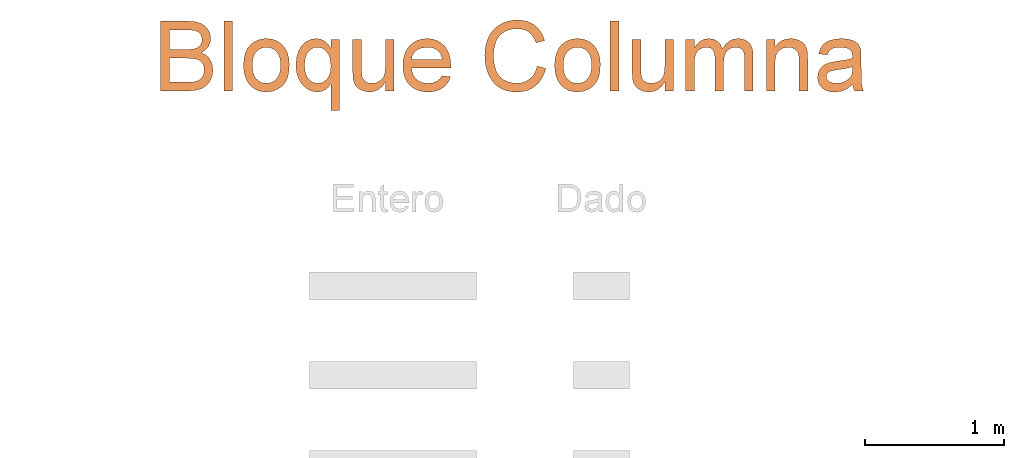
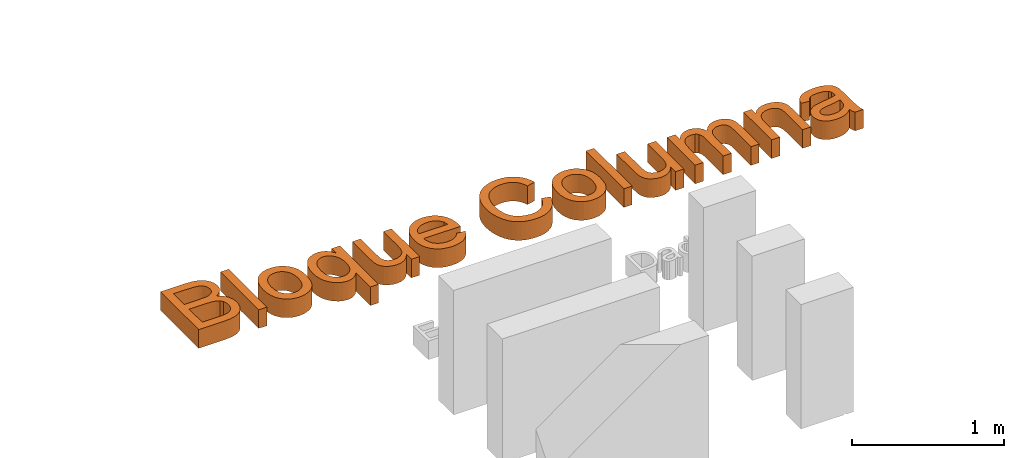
# One storey, part 3 of 8: 1 proxy.
"""IFC2X3 building model written with IfcOpenShell, lengths in metres."""

import ifcopenshell
import ifcopenshell.guid

model = None  # the IFC model being written
_history = None  # IfcOwnerHistory: only IFC2X3 demands one
_inside = {}  # id of a spatial element -> (the spatial element, [elements in it])
_under = {}  # id of a project, library or spatial element -> (it, [spatial elements below it])
_declared = {}  # id of a project -> (the project, [libraries it declares])
_typed = {}  # id of a type object -> (the type object, [elements of that type])
_made_of = {}  # id of a material, layer set ... -> (it, [elements and type objects made of it])


def new_model(schema):
    """Start an empty IFC model of exactly this schema.

    Asked for "IFC4X3", IfcOpenShell would pick the latest addendum, in which some entities
    have other attributes; the version numbers below select the first issue.
    IFC2X3 requires an IfcOwnerHistory on every rooted entity: one is made here for all.
    """
    global model, _history
    if schema == "IFC4X3":
        model = ifcopenshell.file(schema_version=(4, 3, 0, 0))
    else:
        model = ifcopenshell.file(schema=schema)
    _inside.clear()
    _under.clear()
    _declared.clear()
    _typed.clear()
    _made_of.clear()
    _history = None
    if model.schema == "IFC2X3":
        org = make("IfcOrganization", Name="unknown")
        user = make(
            "IfcPersonAndOrganization",
            ThePerson=make("IfcPerson", FamilyName="unknown"),
            TheOrganization=org,
        )
        app = make(
            "IfcApplication",
            ApplicationDeveloper=org,
            Version="unknown",
            ApplicationFullName="unknown",
            ApplicationIdentifier="unknown",
        )
        _history = make(
            "IfcOwnerHistory",
            OwningUser=user,
            OwningApplication=app,
            ChangeAction="ADDED",
            CreationDate=0,
        )
    return model


def make(cls, **values):
    """One entity of the class cls with the attributes given. An attribute that is None is left unset."""
    return model.create_entity(
        cls, **{name: value for name, value in values.items() if value is not None}
    )


def entity(cls, *values):
    """Any entity or typed value of the class cls, its attributes in the order of the schema. None: left unset."""
    e = model.create_entity(cls)
    for i, value in enumerate(values):
        if value is not None:
            e[i] = value
    return e


def rooted(cls, **values):
    """An entity with a GlobalId (a new one), such as an element, a storey or a relation."""
    return make(cls, GlobalId=ifcopenshell.guid.new(), OwnerHistory=_history, **values)


def si_unit(unit_type, name, prefix=None):
    """IfcSIUnit, for example si_unit("LENGTHUNIT", "METRE", prefix="MILLI")."""
    return make("IfcSIUnit", UnitType=unit_type, Prefix=prefix, Name=name)


def converted_unit(unit_type, name, factor, base, dimensions=None, offset=None):
    """IfcConversionBasedUnit, such as the inch: factor (a typed value) times the base unit."""
    return make(
        "IfcConversionBasedUnit"
        if offset is None
        else "IfcConversionBasedUnitWithOffset",
        ConversionOffset=offset,
        Dimensions=None
        if dimensions is None
        else entity("IfcDimensionalExponents", *dimensions),
        UnitType=unit_type,
        Name=name,
        ConversionFactor=make(
            "IfcMeasureWithUnit", ValueComponent=factor, UnitComponent=base
        ),
    )


def derived_unit(unit_type, elements):
    """IfcDerivedUnit: a product of units, each with its exponent."""
    return make(
        "IfcDerivedUnit",
        Elements=[
            make("IfcDerivedUnitElement", Unit=unit, Exponent=power)
            for unit, power in elements
        ],
        UnitType=unit_type,
    )


def assignment(units):
    """IfcUnitAssignment: the units of a project."""
    return None if units is None else make("IfcUnitAssignment", Units=units)


def point(xyz):
    """IfcCartesianPoint."""
    return None if xyz is None else make("IfcCartesianPoint", Coordinates=xyz)


def direction(xyz):
    """IfcDirection."""
    return None if xyz is None else make("IfcDirection", DirectionRatios=xyz)


def frame(location, z_axis=None, x_axis=None):
    """IfcAxis2Placement3D, a coordinate frame: its origin and axes. An axis left out is left unset."""
    return make(
        "IfcAxis2Placement3D",
        Location=point(location),
        Axis=direction(z_axis),
        RefDirection=direction(x_axis),
    )


def frame_2d(location, x_axis=None):
    """IfcAxis2Placement2D, a coordinate frame in the plane: its origin and x axis."""
    return make(
        "IfcAxis2Placement2D", Location=point(location), RefDirection=direction(x_axis)
    )


def origin():
    """The frame at (0, 0, 0) with its axes left unset."""
    return frame((0.0, 0.0, 0.0))


def origin_2d_with_axis():
    """The frame at (0, 0) in the plane with the x axis (1, 0) written out."""
    return frame_2d((0.0, 0.0), x_axis=(1.0, 0.0))


def place(relative_to, where):
    """IfcLocalPlacement: puts the frame where relative to a parent placement (None: the world)."""
    return make(
        "IfcLocalPlacement", PlacementRelTo=relative_to, RelativePlacement=where
    )


def context(
    kind, dimensions, precision=None, world=None, true_north=None, identifier=None
):
    """IfcGeometricRepresentationContext, for example the 3D "Model" context."""
    return make(
        "IfcGeometricRepresentationContext",
        ContextIdentifier=identifier,
        ContextType=kind,
        CoordinateSpaceDimension=dimensions,
        Precision=precision,
        WorldCoordinateSystem=world,
        TrueNorth=true_north,
    )


def subcontext(parent, identifier, kind, view, scale=None):
    """IfcGeometricRepresentationSubContext, for example "Body" below "Model"."""
    return make(
        "IfcGeometricRepresentationSubContext",
        ContextIdentifier=identifier,
        ContextType=kind,
        ParentContext=parent,
        TargetScale=scale,
        TargetView=view,
    )


def project(units=None, contexts=None):
    """IfcProject with its units and contexts."""
    return rooted(
        "IfcProject",
        Name="project",
        RepresentationContexts=contexts,
        UnitsInContext=assignment(units),
    )


def spatial(cls, under=None, at=None, **own):
    """A site, building, storey or space (cls), placed at a placement, below another one or the project."""
    s = rooted(cls, ObjectPlacement=at, **own)
    if under is not None:
        _under.setdefault(under.id(), (under, []))[1].append(s)
    return s


def polyline(points):
    """IfcPolyline through the points."""
    return make("IfcPolyline", Points=[point(p) for p in points])


def profile(cls, at=None, kind="AREA", **sizes):
    """A parametric profile (cls). Its sizes go by their IFC names, for example OverallWidth=200.0."""
    return make(cls, ProfileType=kind, Position=at, **sizes)


def rectangle(**sizes):
    """IfcRectangleProfileDef."""
    return profile("IfcRectangleProfileDef", **sizes)


def outline(outer, holes=None, kind="AREA"):
    """IfcArbitraryClosedProfileDef: a profile drawn as a closed curve; with holes, ...WithVoids."""
    if holes is None:
        return make("IfcArbitraryClosedProfileDef", ProfileType=kind, OuterCurve=outer)
    return make(
        "IfcArbitraryProfileDefWithVoids",
        ProfileType=kind,
        OuterCurve=outer,
        InnerCurves=holes,
    )


def extrude(swept, where, along, depth):
    """IfcExtrudedAreaSolid: the profile swept, set in the frame where, extruded along a direction by depth."""
    return make(
        "IfcExtrudedAreaSolid",
        SweptArea=swept,
        Position=where,
        ExtrudedDirection=direction(along),
        Depth=depth,
    )


def shape(context_of_items, identifier, shape_type, items):
    """IfcShapeRepresentation: the items that make up one representation, for example the "Body"."""
    return make(
        "IfcShapeRepresentation",
        ContextOfItems=context_of_items,
        RepresentationIdentifier=identifier,
        RepresentationType=shape_type,
        Items=items,
    )


def made_of(thing, what):
    """Note that an element or type object is made of a material, layer set ...; save() writes the relation."""
    if what is not None:
        _made_of.setdefault(what.id(), (what, []))[1].append(thing)
    return thing


def type_object(cls, material=None, **own):
    """A type object (cls), such as IfcWallType, which elements share."""
    return made_of(rooted(cls, **own), material)


def element(
    cls,
    number,
    at=None,
    inside=None,
    cuts=None,
    type_object=None,
    material=None,
    context=None,
    identifier="Body",
    shape_type=None,
    held_by="IfcProductDefinitionShape",
    body=None,
    shapes=None,
    **own,
):
    """One element of the class cls, such as IfcWall. Its Tag is "e" and its number.

    at: its placement. inside: the storey or other place that contains it. cuts: it is an
    opening in that element (IfcRelVoidsElement). A single representation is given by context,
    identifier, shape_type and body (its items); several are given by shapes. held_by: the class
    of the entity that holds the representations. save() writes the other relations.
    """
    e = rooted(cls, Tag="e%d" % number, ObjectPlacement=at, **own)
    if body is not None:
        shapes = [shape(context, identifier, shape_type, body)]
    if shapes is not None:
        e.Representation = make(held_by, Representations=shapes)
    if inside is not None:
        _inside.setdefault(inside.id(), (inside, []))[1].append(e)
    if cuts is not None:
        rooted(
            "IfcRelVoidsElement", RelatingBuildingElement=cuts, RelatedOpeningElement=e
        )
    if type_object is not None:
        _typed.setdefault(type_object.id(), (type_object, []))[1].append(e)
    return made_of(e, material)


def aggregate(whole, parts):
    """IfcRelAggregates: a whole, such as a stair, and the parts it consists of."""
    return rooted("IfcRelAggregates", RelatingObject=whole, RelatedObjects=parts)


def save(model, path):
    """Write the relations noted so far, then the file.

    IfcRelAggregates (storeys below a building ...), IfcRelContainedInSpatialStructure (elements
    in a storey), IfcRelDefinesByType, IfcRelAssociatesMaterial and IfcRelDeclares: one each for
    every whole, place, type object, material and project.
    """
    for whole, parts in _under.values():
        aggregate(whole, parts)
    for where, things in _inside.values():
        rooted(
            "IfcRelContainedInSpatialStructure",
            RelatedElements=things,
            RelatingStructure=where,
        )
    for kind, things in _typed.values():
        rooted("IfcRelDefinesByType", RelatedObjects=things, RelatingType=kind)
    for what, things in _made_of.values():
        rooted("IfcRelAssociatesMaterial", RelatedObjects=things, RelatingMaterial=what)
    for by, libraries in _declared.values():
        rooted("IfcRelDeclares", RelatingContext=by, RelatedDefinitions=libraries)
    model.write(path)


model = new_model("IFC2X3")

# Units and contexts
model_context = context("Model", 3, precision=1e-05, world=origin(), true_north=direction((6.12303176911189e-17, 1.0)))
body_context = subcontext(model_context, "Body", "Model", "MODEL_VIEW")
ifc_project = project(units=[si_unit("LENGTHUNIT", "METRE"), si_unit("AREAUNIT", "SQUARE_METRE"), si_unit("VOLUMEUNIT", "CUBIC_METRE"), converted_unit("PLANEANGLEUNIT", "DEGREE", entity("IfcRatioMeasure", 0.0174532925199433), si_unit("PLANEANGLEUNIT", "RADIAN"), dimensions=[0, 0, 0, 0, 0, 0, 0]), si_unit("MASSUNIT", "GRAM", prefix="KILO"), derived_unit("MASSDENSITYUNIT", [(si_unit("MASSUNIT", "GRAM", prefix="KILO"), 1), (si_unit("LENGTHUNIT", "METRE"), -3)]), derived_unit("MOMENTOFINERTIAUNIT", [(si_unit("LENGTHUNIT", "METRE"), 4)]), si_unit("TIMEUNIT", "SECOND"), si_unit("FREQUENCYUNIT", "HERTZ"), si_unit("THERMODYNAMICTEMPERATUREUNIT", "DEGREE_CELSIUS"), derived_unit("THERMALTRANSMITTANCEUNIT", [(si_unit("MASSUNIT", "GRAM", prefix="KILO"), 1), (si_unit("THERMODYNAMICTEMPERATUREUNIT", "KELVIN"), -1), (si_unit("TIMEUNIT", "SECOND"), -3)]), derived_unit("VOLUMETRICFLOWRATEUNIT", [(si_unit("LENGTHUNIT", "METRE"), 3), (si_unit("TIMEUNIT", "SECOND"), -1)]), si_unit("ELECTRICCURRENTUNIT", "AMPERE"), si_unit("ELECTRICVOLTAGEUNIT", "VOLT"), si_unit("POWERUNIT", "WATT"), si_unit("FORCEUNIT", "NEWTON", prefix="KILO"), si_unit("ILLUMINANCEUNIT", "LUX"), si_unit("LUMINOUSFLUXUNIT", "LUMEN"), si_unit("LUMINOUSINTENSITYUNIT", "CANDELA"), derived_unit("USERDEFINED", [(si_unit("MASSUNIT", "GRAM", prefix="KILO"), -1), (si_unit("LENGTHUNIT", "METRE"), -2), (si_unit("TIMEUNIT", "SECOND"), 3), (si_unit("LUMINOUSFLUXUNIT", "LUMEN"), 1)]), derived_unit("LINEARVELOCITYUNIT", [(si_unit("LENGTHUNIT", "METRE"), 1), (si_unit("TIMEUNIT", "SECOND"), -1)]), si_unit("PRESSUREUNIT", "PASCAL"), derived_unit("USERDEFINED", [(si_unit("LENGTHUNIT", "METRE"), -2), (si_unit("MASSUNIT", "GRAM", prefix="KILO"), 1), (si_unit("TIMEUNIT", "SECOND"), -2)]), derived_unit("LINEARFORCEUNIT", [(si_unit("MASSUNIT", "GRAM", prefix="KILO"), 1), (si_unit("LENGTHUNIT", "METRE"), 1), (si_unit("TIMEUNIT", "SECOND"), -2), (si_unit("LENGTHUNIT", "METRE"), -1)]), derived_unit("PLANARFORCEUNIT", [(si_unit("MASSUNIT", "GRAM", prefix="KILO"), 1), (si_unit("LENGTHUNIT", "METRE"), 1), (si_unit("TIMEUNIT", "SECOND"), -2), (si_unit("LENGTHUNIT", "METRE"), -2)])], contexts=[model_context])

# Site, building, storey
site_placement = place(None, origin())
site = spatial("IfcSite", under=ifc_project, at=site_placement, Name="Default", CompositionType="ELEMENT")
building_placement = place(site_placement, origin())
building = spatial("IfcBuilding", under=site, at=building_placement, CompositionType="ELEMENT")
storey_placement = place(building_placement, origin())
storey = spatial("IfcBuildingStorey", under=building, at=storey_placement, Name="Nivel 1", CompositionType="ELEMENT", Elevation=0.0)

# Proxy
building_element_proxy_type = type_object("IfcBuildingElementProxyType", Name="Texto de modelo:Título", PredefinedType="NOTDEFINED")
proxy_placement = place(storey_placement, origin())
element("IfcBuildingElementProxy", 1, at=proxy_placement, inside=storey, type_object=building_element_proxy_type, Name="Texto de modelo:Título", ObjectType="Texto de modelo:Título", context=body_context, shape_type="SweptSolid", body=[
    extrude(outline(polyline([(-0.292681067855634, -0.243581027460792), (-0.102486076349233, -0.243581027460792), (-0.0585088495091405, -0.241419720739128), (-0.021981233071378, -0.234935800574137), (0.00807779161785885, -0.224236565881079), (0.0326492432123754, -0.209429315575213), (0.0527141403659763, -0.188981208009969), (0.0692535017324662, -0.161359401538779), (0.0803359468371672, -0.128878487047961), (0.0840300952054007, -0.0938530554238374), (0.0786191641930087, -0.0518225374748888), (0.0623863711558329, -0.015739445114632), (0.0504033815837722, -0.000395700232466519), (0.0360981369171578, 0.0125261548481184), (0.0194706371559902, 0.0230261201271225), (0.000520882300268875, 0.0311041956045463), (0.0303039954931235, 0.0506785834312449), (0.0514725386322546, 0.0755566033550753), (0.0641184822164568, 0.103990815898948), (0.0683337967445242, 0.134233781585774), (0.0633214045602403, 0.167097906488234), (0.048284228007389, 0.198490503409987), (0.0244025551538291, 0.22517727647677), (-0.00714332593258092, 0.243923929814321), (-0.0483001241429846, 0.255006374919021), (-0.101014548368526, 0.258700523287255), (-0.292681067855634, 0.258700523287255), (-0.292681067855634, -0.243581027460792)]), holes=[polyline([(-0.229895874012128, 0.0546486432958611), (-0.229895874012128, 0.195915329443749), (-0.123945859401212, 0.195915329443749), (-0.0752014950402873, 0.194275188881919), (-0.0432570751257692, 0.18935476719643), (-0.0224410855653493, 0.180019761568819), (-0.00708201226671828, 0.165135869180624), (0.00239094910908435, 0.146067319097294), (0.00554860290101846, 0.124178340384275), (0.00216102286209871, 0.10163023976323), (-0.00800171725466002, 0.083282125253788), (-0.0248476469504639, 0.069348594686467), (-0.0482847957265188, 0.0600442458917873), (-0.0751401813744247, 0.0559975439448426), (-0.115239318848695, 0.0546486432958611), (-0.229895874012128, 0.0546486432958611)]), polyline([(-0.229895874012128, -0.180795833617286), (-0.229895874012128, -0.00813655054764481), (-0.107268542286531, -0.00813655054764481), (-0.0625555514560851, -0.0102365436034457), (-0.0297067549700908, -0.0165365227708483), (-0.00651486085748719, -0.0280175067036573), (0.00922742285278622, -0.0456605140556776), (0.0182405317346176, -0.0682239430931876), (0.021244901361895, -0.0944661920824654), (0.0186850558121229, -0.117060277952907), (0.0110055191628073, -0.136772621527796), (-0.000644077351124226, -0.152882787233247), (-0.0151141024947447, -0.16467033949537), (-0.0329103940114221, -0.172901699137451), (-0.0545387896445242, -0.178343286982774), (-0.101137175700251, -0.180795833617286), (-0.229895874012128, -0.180795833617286)])]), frame((-2.20732768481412, 0.973468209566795, 0.0)), (0.0, 0.0, 1.0), 0.15),
    extrude(rectangle(XDim=0.062785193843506, YDim=0.502281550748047, at=origin_2d_with_axis()), frame((-2.01342350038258, 0.981027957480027, 0.0)), (0.0, 0.0, 1.0), 0.15),
    extrude(outline(polyline([(-0.0131957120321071, -0.170548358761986), (0.0307665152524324, -0.170548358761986), (0.0696520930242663, -0.164512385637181), (0.103461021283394, -0.152440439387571), (0.132193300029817, -0.134332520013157), (0.155411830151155, -0.111243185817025), (0.172679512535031, -0.0842269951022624), (0.183996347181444, -0.0532839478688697), (0.189362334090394, -0.0184140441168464), (0.186618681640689, 0.0261717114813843), (0.172415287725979, 0.0679068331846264), (0.161237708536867, 0.0869767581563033), (0.147638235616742, 0.103876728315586), (0.131616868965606, 0.118606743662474), (0.113173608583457, 0.131166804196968), (0.091547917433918, 0.141494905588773), (0.0659792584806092, 0.149529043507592), (0.00301303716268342, 0.158715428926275), (-0.0385534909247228, 0.158529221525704), (-0.0757586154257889, 0.152292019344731), (-0.108602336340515, 0.140003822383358), (-0.137084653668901, 0.121664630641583), (-0.160392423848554, 0.0984428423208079), (-0.177712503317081, 0.0715068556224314), (-0.189044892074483, 0.040856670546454), (-0.194389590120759, 0.00649228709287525), (-0.1938749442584, -0.024984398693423), (-0.18810582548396, -0.0543136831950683), (-0.17708223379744, -0.0814955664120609), (-0.160804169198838, -0.106530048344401), (-0.134450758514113, -0.132057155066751), (-0.101064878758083, -0.151235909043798), (-0.060646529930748, -0.164066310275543), (-0.0131957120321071, -0.170548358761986)]), holes=[polyline([(-0.00925174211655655, -0.107887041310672), (-0.0395162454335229, -0.104102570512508), (-0.0654537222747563, -0.0969584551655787), (-0.0870641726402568, -0.0864546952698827), (-0.104347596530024, -0.0725912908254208), (-0.117399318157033, -0.0562452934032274), (-0.126314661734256, -0.0382937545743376), (-0.131093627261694, -0.0187366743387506), (-0.131736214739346, 0.00242594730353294), (-0.128372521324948, 0.0230712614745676), (-0.121092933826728, 0.0416882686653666), (-0.109897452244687, 0.0582769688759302), (-0.0947860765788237, 0.0728373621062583), (-0.0759345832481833, 0.0844361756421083), (-0.0535187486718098, 0.0921401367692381), (-0.0275385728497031, 0.0959492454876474), (0.00200594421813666, 0.0958635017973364), (0.032985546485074, 0.0920326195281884), (0.0594775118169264, 0.0848525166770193), (0.0814818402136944, 0.0743231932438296), (0.0989985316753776, 0.0604446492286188), (0.112185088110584, 0.0441052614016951), (0.121199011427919, 0.0261934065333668), (0.126040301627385, 0.00670908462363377), (0.126708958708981, -0.0143477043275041), (0.123328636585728, -0.0352492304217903), (0.116038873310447, -0.0540230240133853), (0.10483966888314, -0.0706690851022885), (0.0897310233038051, -0.0851874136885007), (0.0707470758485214, -0.0966969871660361), (0.0479219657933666, -0.10431678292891), (0.0212556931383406, -0.108046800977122), (-0.00925174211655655, -0.107887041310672)])]), frame((-1.73250448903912, 0.912196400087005, 0.0), z_axis=(0.0, 0.0, 1.0), x_axis=(0.0647659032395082, -0.997900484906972, 0.0)), (0.0, 0.0, 1.0), 0.15),
    extrude(outline(polyline([(0.11312234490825, -0.311998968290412), (0.175907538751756, -0.311998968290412), (0.175907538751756, 0.198130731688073), (0.11312234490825, 0.198130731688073), (0.11312234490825, 0.135590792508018), (0.092674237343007, 0.166385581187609), (0.0687312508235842, 0.188381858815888), (0.0412933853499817, 0.201579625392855), (0.0103606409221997, 0.205978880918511), (-0.0296465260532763, 0.200307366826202), (-0.0662814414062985, 0.183292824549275), (-0.0827211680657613, 0.170616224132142), (-0.0970915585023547, 0.155272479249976), (-0.119624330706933, 0.11658355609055), (-0.133419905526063, 0.0697092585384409), (-0.138018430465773, 0.0171327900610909), (-0.135121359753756, -0.0259975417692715), (-0.126430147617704, -0.0642764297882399), (-0.111944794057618, -0.0977038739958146), (-0.0916652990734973, -0.126279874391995), (-0.0673774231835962, -0.149161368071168), (-0.0408669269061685, -0.165505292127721), (-0.0121338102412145, -0.175311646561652), (0.018821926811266, -0.178580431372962), (0.046842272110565, -0.174441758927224), (0.0732684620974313, -0.162025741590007), (0.096046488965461, -0.143355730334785), (0.11312234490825, -0.120455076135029), (0.11312234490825, -0.311998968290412)]), holes=[polyline([(-0.0752332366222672, 0.0136992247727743), (-0.0735586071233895, 0.0447967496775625), (-0.0685347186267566, 0.0715026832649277), (-0.0601615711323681, 0.09381702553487), (-0.0484391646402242, 0.111739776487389), (-0.0343101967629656, 0.125500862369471), (-0.0187173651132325, 0.135330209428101), (-0.0016606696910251, 0.141227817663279), (0.0168598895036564, 0.143193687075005), (0.0356103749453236, 0.141082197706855), (0.053111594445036, 0.134747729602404), (0.0693635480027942, 0.124190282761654), (0.0843662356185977, 0.109409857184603), (0.0969470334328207, 0.0904447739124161), (0.105933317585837, 0.0673333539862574), (0.111325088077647, 0.0400755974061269), (0.11312234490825, 0.0086715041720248), (0.111417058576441, -0.0207743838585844), (0.106301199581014, -0.04620422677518), (0.0977747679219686, -0.0676180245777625), (0.0858377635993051, -0.0850157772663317), (0.0715401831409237, -0.0984817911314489), (0.0559320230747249, -0.108100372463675), (0.0390132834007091, -0.113871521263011), (0.0207839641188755, -0.115795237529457), (0.00174223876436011, -0.113771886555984), (-0.0158969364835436, -0.107701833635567), (-0.0321335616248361, -0.0975850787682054), (-0.0469676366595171, -0.0834216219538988), (-0.0593338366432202, -0.0652114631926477), (-0.0681668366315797, -0.0429546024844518), (-0.0734666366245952, -0.0166510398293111), (-0.0752332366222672, 0.0136992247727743)])]), frame((-1.38881981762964, 0.900619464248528, 0.0)), (0.0, 0.0, 1.0), 0.15),
    extrude(outline(polyline([(0.099374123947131, -0.10269783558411), (0.162159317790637, -0.10269783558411), (0.162159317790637, 0.266165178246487), (0.099374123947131, 0.266165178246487), (0.099374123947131, 0.0742534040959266), (0.0968296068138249, 0.0338323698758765), (0.0891960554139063, 0.00429451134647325), (0.0754464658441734, -0.0172725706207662), (0.0545538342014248, -0.0337812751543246), (0.0292159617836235, -0.0442659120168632), (0.00213064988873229, -0.0477607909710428), (-0.0234831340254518, -0.0443425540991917), (-0.0446516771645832, -0.0340878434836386), (-0.060332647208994, -0.0178550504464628), (-0.0694837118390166, 0.00349743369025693), (-0.0732851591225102, 0.0675089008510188), (-0.0732851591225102, 0.266165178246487), (-0.136070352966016, 0.266165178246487), (-0.136070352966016, 0.0379557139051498), (-0.132391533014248, -0.0204148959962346), (-0.125018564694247, -0.0456454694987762), (-0.113690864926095, -0.0666454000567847), (-0.0968602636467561, -0.083935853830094), (-0.0729785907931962, -0.0980379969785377), (-0.0445137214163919, -0.107418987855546), (-0.0139335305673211, -0.110545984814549), (0.020003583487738, -0.106093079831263), (0.0502005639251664, -0.0927343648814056), (0.0766574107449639, -0.0704698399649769), (0.099374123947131, -0.0392995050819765), (0.099374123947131, -0.10269783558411)])), frame((-0.982664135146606, 0.832585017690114, 0.0)), (0.0, 0.0, 1.0), 0.15),
    extrude(outline(polyline([(-0.0285819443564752, -0.112502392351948), (-0.0578029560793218, -0.167249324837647), (-0.032232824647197, -0.17381891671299), (-0.00713898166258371, -0.176000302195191), (0.017478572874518, -0.17379348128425), (0.0416198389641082, -0.167198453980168), (0.0648944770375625, -0.156182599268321), (0.0869121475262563, -0.140713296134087), (0.10767285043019, -0.120790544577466), (0.127176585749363, -0.0964143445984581), (0.147184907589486, -0.0628437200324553), (0.159666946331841, -0.0291392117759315), (0.16462270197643, 0.00469918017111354), (0.162052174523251, 0.0386714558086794), (0.151934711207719, 0.0717021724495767), (0.134249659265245, 0.102715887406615), (0.108997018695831, 0.131712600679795), (0.0761767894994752, 0.158692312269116), (0.0386809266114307, 0.181565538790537), (0.00190165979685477, 0.196468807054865), (-0.0341610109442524, 0.2034021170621), (-0.0695070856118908, 0.202365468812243), (-0.102928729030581, 0.194014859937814), (-0.133218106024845, 0.179006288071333), (-0.160375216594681, 0.157339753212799), (-0.18440006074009, 0.129015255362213), (-0.202515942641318, 0.0979595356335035), (-0.213436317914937, 0.0659991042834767), (-0.217161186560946, 0.0331339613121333), (-0.213690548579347, -0.000635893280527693), (-0.202780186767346, -0.033933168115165), (-0.184185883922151, -0.0653805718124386), (-0.157907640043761, -0.094978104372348), (-0.123945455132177, -0.122725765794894), (-0.109931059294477, -0.132218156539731), (0.0533469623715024, 0.0979071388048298), (0.0716760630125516, 0.0804432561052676), (0.0853873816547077, 0.0618484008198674), (0.0944809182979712, 0.0421225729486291), (0.098956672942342, 0.0212657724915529), (0.0991008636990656, 5.22501907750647e-05), (0.0951997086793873, -0.0207437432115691), (0.0872532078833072, -0.041122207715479), (0.0752613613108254, -0.0610831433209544), (0.0532495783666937, -0.0864379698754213), (0.0289384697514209, -0.103695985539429), (0.00182798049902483, -0.112502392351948), (-0.0285819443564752, -0.112502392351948)]), holes=[polyline([(0.00214133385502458, 0.134238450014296), (-0.125018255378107, -0.0449812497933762), (-0.147157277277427, -0.0188609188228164), (-0.156876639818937, 0.00844625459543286), (-0.157470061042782, 0.0298610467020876), (-0.153697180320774, 0.0510722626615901), (-0.145557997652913, 0.0720799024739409), (-0.1330525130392, 0.0928839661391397), (-0.103774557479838, 0.124003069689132), (-0.0871344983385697, 0.134773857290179), (-0.0691603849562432, 0.142352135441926), (-0.0507231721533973, 0.146331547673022), (-0.0326938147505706, 0.146305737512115), (-0.0150723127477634, 0.142274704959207), (0.00214133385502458, 0.134238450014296)])]), frame((-0.584214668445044, 0.881551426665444, 0.0), z_axis=(0.0, 0.0, -1.0), x_axis=(-0.578660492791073, -0.815568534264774, 0.0)), (0.0, 0.0, -1.0), 0.15),
    extrude(outline(polyline([(0.027734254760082, -0.186752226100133), (0.0253192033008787, -0.251545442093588), (0.0662863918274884, -0.250788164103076), (0.103708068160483, -0.244672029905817), (0.137584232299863, -0.233197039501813), (0.167914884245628, -0.216363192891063), (0.194290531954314, -0.194632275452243), (0.216301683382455, -0.168466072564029), (0.233948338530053, -0.137864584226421), (0.247230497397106, -0.102827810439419), (0.256187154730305, -0.0655465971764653), (0.260121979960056, -0.0306797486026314), (0.259034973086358, 0.0017727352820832), (0.252926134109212, 0.0318108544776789), (0.24210726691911, 0.0597295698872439), (0.226890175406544, 0.0858238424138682), (0.207274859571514, 0.110093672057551), (0.18326131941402, 0.132539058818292), (0.156028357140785, 0.152660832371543), (0.126754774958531, 0.169959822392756), (0.0954405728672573, 0.184436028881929), (0.0620857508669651, 0.196089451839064), (0.0252628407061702, 0.205121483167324), (-0.0102269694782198, 0.209877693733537), (-0.0443836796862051, 0.210358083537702), (-0.0772072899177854, 0.20656265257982), (-0.108133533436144, 0.19862717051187), (-0.136598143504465, 0.186687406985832), (-0.162601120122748, 0.170743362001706), (-0.186142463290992, 0.150795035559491), (-0.206839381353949, 0.127644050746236), (-0.224309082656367, 0.102092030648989), (-0.238551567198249, 0.0741389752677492), (-0.249566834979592, 0.043784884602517), (-0.257477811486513, 0.00867123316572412), (-0.259851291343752, -0.0249814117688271), (-0.25668727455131, -0.0571730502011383), (-0.247985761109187, -0.0879036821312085), (-0.234053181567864, -0.116618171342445), (-0.215195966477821, -0.142761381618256), (-0.191414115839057, -0.16633331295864), (-0.162707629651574, -0.187333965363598), (-0.130442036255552, -0.131434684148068), (-0.151281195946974, -0.114909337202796), (-0.16810649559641, -0.0975006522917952), (-0.180917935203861, -0.0792086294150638), (-0.189715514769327, -0.0600332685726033), (-0.194744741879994, -0.0398054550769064), (-0.19625112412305, -0.0183560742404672), (-0.194234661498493, 0.00431487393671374), (-0.188695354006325, 0.028207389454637), (-0.179044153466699, 0.0547214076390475), (-0.166862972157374, 0.0779705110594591), (-0.15215181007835, 0.0979546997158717), (-0.134910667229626, 0.114673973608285), (-0.115721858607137, 0.12802593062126), (-0.0951676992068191, 0.137908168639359), (-0.0732481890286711, 0.14432068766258), (-0.0499633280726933, 0.147263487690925), (-0.00249488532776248, 0.14564388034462), (0.0440402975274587, 0.135953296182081), (0.0982756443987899, 0.114851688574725), (0.1422846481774, 0.0869125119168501), (0.159956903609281, 0.0703870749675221), (0.174077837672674, 0.0521687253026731), (0.184647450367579, 0.0322574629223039), (0.191665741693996, 0.0106532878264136), (0.196203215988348, -0.0341872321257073), (0.188845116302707, -0.0789062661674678), (0.179185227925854, -0.104510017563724), (0.166417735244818, -0.126908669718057), (0.1505426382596, -0.146102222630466), (0.131559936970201, -0.162090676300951), (0.109668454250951, -0.174421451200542), (0.0850670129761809, -0.182641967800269), (0.0577556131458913, -0.186752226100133), (0.027734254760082, -0.186752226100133)])), frame((0.0365451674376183, 0.988338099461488, 0.0), z_axis=(0.0, 0.0, -1.0), x_axis=(-0.285543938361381, -0.958365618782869, 0.0)), (0.0, 0.0, -1.0), 0.15),
    extrude(outline(polyline([(-0.013195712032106, -0.170548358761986), (0.0307665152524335, -0.170548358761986), (0.0696520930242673, -0.164512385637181), (0.103461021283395, -0.152440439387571), (0.132193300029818, -0.134332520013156), (0.155411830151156, -0.111243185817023), (0.172679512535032, -0.084226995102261), (0.183996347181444, -0.0532839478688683), (0.189362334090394, -0.018414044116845), (0.186618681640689, 0.026171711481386), (0.172415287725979, 0.0679068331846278), (0.161237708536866, 0.0869767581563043), (0.147638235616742, 0.103876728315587), (0.131616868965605, 0.118606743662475), (0.113173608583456, 0.131166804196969), (0.0915479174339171, 0.141494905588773), (0.0659792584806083, 0.149529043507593), (0.00301303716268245, 0.158715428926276), (-0.0385534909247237, 0.158529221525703), (-0.0757586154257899, 0.152292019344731), (-0.108602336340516, 0.140003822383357), (-0.137084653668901, 0.121664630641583), (-0.160392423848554, 0.098442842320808), (-0.177712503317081, 0.0715068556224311), (-0.189044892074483, 0.0408566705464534), (-0.194389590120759, 0.00649228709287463), (-0.1938749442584, -0.0249843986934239), (-0.18810582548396, -0.0543136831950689), (-0.177082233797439, -0.0814955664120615), (-0.160804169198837, -0.106530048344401), (-0.134450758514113, -0.132057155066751), (-0.101064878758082, -0.151235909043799), (-0.060646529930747, -0.164066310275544), (-0.013195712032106, -0.170548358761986)]), holes=[polyline([(-0.00925174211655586, -0.107887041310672), (-0.0395162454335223, -0.104102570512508), (-0.0654537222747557, -0.0969584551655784), (-0.0870641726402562, -0.0864546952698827), (-0.104347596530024, -0.0725912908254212), (-0.117399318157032, -0.0562452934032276), (-0.126314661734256, -0.0382937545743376), (-0.131093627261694, -0.0187366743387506), (-0.131736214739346, 0.00242594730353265), (-0.128372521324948, 0.0230712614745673), (-0.121092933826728, 0.0416882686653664), (-0.109897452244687, 0.0582769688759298), (-0.0947860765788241, 0.0728373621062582), (-0.0759345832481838, 0.0844361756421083), (-0.0535187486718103, 0.0921401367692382), (-0.0275385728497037, 0.0959492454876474), (0.0020059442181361, 0.0958635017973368), (0.0329855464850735, 0.092032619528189), (0.0594775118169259, 0.0848525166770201), (0.0814818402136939, 0.0743231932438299), (0.0989985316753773, 0.0604446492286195), (0.112185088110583, 0.0441052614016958), (0.121199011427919, 0.0261934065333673), (0.126040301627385, 0.00670908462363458), (0.126708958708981, -0.014347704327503), (0.123328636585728, -0.035249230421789), (0.116038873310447, -0.054023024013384), (0.10483966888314, -0.0706690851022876), (0.0897310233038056, -0.0851874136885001), (0.0707470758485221, -0.0966969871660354), (0.0479219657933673, -0.104316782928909), (0.0212556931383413, -0.108046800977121), (-0.00925174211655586, -0.107887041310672)])]), frame((0.504218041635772, 0.912196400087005, 0.0), z_axis=(0.0, 0.0, 1.0), x_axis=(0.0647659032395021, -0.997900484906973, 0.0)), (0.0, 0.0, 1.0), 0.15),
    extrude(rectangle(XDim=0.0627851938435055, YDim=0.502281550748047, at=origin_2d_with_axis()), frame((0.764821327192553, 0.981027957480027, 0.0)), (0.0, 0.0, 1.0), 0.15),
    extrude(outline(polyline([(0.0993741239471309, -0.10269783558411), (0.162159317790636, -0.10269783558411), (0.162159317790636, 0.266165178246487), (0.0993741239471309, 0.266165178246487), (0.0993741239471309, 0.0742534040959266), (0.0968296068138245, 0.0338323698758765), (0.0891960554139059, 0.00429451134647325), (0.0754464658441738, -0.0172725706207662), (0.0545538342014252, -0.0337812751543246), (0.0292159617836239, -0.0442659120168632), (0.00213064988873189, -0.0477607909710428), (-0.023483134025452, -0.0443425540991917), (-0.0446516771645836, -0.0340878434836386), (-0.0603326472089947, -0.0178550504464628), (-0.0694837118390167, 0.00349743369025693), (-0.07328515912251, 0.0675089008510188), (-0.07328515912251, 0.266165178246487), (-0.136070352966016, 0.266165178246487), (-0.136070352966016, 0.0379557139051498), (-0.132391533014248, -0.0204148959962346), (-0.125018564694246, -0.0456454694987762), (-0.113690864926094, -0.0666454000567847), (-0.0968602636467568, -0.083935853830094), (-0.0729785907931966, -0.0980379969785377), (-0.0445137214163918, -0.107418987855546), (-0.013933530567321, -0.110545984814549), (0.0200035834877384, -0.106093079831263), (0.0502005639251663, -0.0927343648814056), (0.0766574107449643, -0.0704698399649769), (0.0993741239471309, -0.0392995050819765), (0.0993741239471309, -0.10269783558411)])), frame((1.02646206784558, 0.832585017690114, 0.0)), (0.0, 0.0, 1.0), 0.15),
    extrude(outline(polyline([(-0.26520740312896, -0.274598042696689), (-0.202422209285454, -0.274598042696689), (-0.202422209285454, -0.0885723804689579), (-0.200030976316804, -0.0453769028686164), (-0.192857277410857, -0.013647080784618), (-0.180349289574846, 0.00922291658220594), (-0.161955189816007, 0.0258389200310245), (-0.13966767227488, 0.0359556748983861), (-0.115479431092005, 0.03932792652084), (-0.0870145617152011, 0.0342695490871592), (-0.0762655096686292, 0.027946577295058), (-0.0678387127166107, 0.0190944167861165), (-0.0569402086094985, -0.00622812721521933), (-0.0533073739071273, -0.0417287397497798), (-0.0533073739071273, -0.274598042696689), (0.00947781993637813, -0.274598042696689), (0.00947781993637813, -0.0663768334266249), (0.0110144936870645, -0.0405561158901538), (0.0156245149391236, -0.0185215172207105), (0.0233078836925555, -0.000273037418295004), (0.0340645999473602, 0.0141893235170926), (0.0471435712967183, 0.0251874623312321), (0.0617937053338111, 0.0330432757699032), (0.0780150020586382, 0.0377567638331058), (0.0958074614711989, 0.03932792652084), (0.115075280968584, 0.0368753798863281), (0.131675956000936, 0.0295177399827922), (0.144582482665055, 0.0181593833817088), (0.152767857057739, 0.00370468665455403), (0.157136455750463, -0.0174025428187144), (0.158592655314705, -0.0487184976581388), (0.158592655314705, -0.274598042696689), (0.221377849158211, -0.274598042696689), (0.221377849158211, -0.0217404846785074), (0.219580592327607, 0.00778587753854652), (0.214188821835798, 0.0332118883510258), (0.205202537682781, 0.0545375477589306), (0.192621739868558, 0.0717628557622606), (0.176707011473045, 0.0850410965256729), (0.15771893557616, 0.0945255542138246), (0.135657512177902, 0.100216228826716), (0.11052274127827, 0.102113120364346), (0.0779805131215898, 0.0975529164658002), (0.0486572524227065, 0.0838723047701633), (0.0225529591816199, 0.0610712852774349), (-0.000332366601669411, 0.0291498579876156), (-0.0140053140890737, 0.0598833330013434), (-0.0349132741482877, 0.08292194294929), (-0.0629029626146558, 0.0973153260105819), (-0.0978210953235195, 0.102113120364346), (-0.130409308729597, 0.0974072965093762), (-0.159257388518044, 0.0832898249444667), (-0.183537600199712, 0.0614468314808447), (-0.202422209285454, 0.033564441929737), (-0.202422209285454, 0.0942649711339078), (-0.26520740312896, 0.0942649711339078), (-0.26520740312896, -0.274598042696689)])), frame((1.5401584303, 1.00448522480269, 0.0)), (0.0, 0.0, 1.0), 0.15),
    extrude(outline(polyline([(-0.160354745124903, -0.269066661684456), (-0.0975695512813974, -0.269066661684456), (-0.0975695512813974, -0.0733534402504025), (-0.0957799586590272, -0.0416619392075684), (-0.0904111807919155, -0.0155039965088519), (-0.0814632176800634, 0.00512038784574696), (-0.0689360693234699, 0.0202112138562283), (-0.0539410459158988, 0.0309947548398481), (-0.0375894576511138, 0.038697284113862), (-0.0198813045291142, 0.0433188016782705), (-0.000816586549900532, 0.0448593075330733), (0.0223446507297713, 0.0421155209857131), (0.0422869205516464, 0.0338841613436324), (0.0578452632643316, 0.0210542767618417), (0.0678547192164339, 0.00451491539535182), (0.0732809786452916, -0.0185696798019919), (0.0750897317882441, -0.0510352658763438), (0.0750897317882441, -0.269066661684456), (0.13787492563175, -0.269066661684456), (0.13787492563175, -0.0425739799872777), (0.134563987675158, 0.0181265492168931), (0.127160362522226, 0.043035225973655), (0.115740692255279, 0.0642957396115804), (0.0989100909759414, 0.0818621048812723), (0.0752736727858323, 0.0956883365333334), (0.0469314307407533, 0.104655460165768), (0.0159833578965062, 0.107644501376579), (-0.0189807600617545, 0.10393502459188), (-0.0495609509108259, 0.0928065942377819), (-0.0757572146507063, 0.0742592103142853), (-0.0975695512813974, 0.0482928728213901), (-0.0975695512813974, 0.099796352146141), (-0.160354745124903, 0.099796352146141), (-0.160354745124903, -0.269066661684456)])), frame((2.01606881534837, 0.99895384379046, 0.0)), (0.0, 0.0, 1.0), 0.15),
    extrude(outline(polyline([(0.160198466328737, 0.0633183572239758), (0.186081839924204, 0.0633183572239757), (0.209576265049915, 0.0683751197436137), (0.22325926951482, 0.129651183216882), (0.196354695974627, 0.127680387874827), (0.169011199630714, 0.128948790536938), (0.0618611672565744, 0.149608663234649), (-0.0143748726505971, 0.166632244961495), (-0.0686595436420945, 0.175612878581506), (-0.0932733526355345, 0.173350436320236), (-0.114444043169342, 0.166109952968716), (-0.133347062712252, 0.152284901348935), (-0.151157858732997, 0.130268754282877), (-0.166658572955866, 0.0992555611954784), (-0.178631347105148, 0.058439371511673), (-0.185193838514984, 0.0145617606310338), (-0.184356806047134, -0.025156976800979), (-0.176301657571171, -0.0592785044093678), (-0.161209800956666, -0.0863644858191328), (-0.138424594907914, -0.108116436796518), (-0.10728939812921, -0.126235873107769), (-0.0859468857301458, -0.0666701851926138), (-0.108704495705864, -0.0488037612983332), (-0.121173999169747, -0.0277690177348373), (-0.124323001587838, -0.000302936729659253), (-0.119119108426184, 0.0368574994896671), (-0.105885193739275, 0.0753031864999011), (-0.0968791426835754, 0.0896105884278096), (-0.0862803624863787, 0.100641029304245), (-0.0655621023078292, 0.109301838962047), (-0.037273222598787, 0.107413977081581), (-0.0237098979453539, 0.104008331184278), (-0.0220814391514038, 0.0578462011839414), (-0.0263777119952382, -0.00697087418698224), (-0.0290013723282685, -0.0620468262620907), (-0.0256182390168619, -0.0865653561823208), (-0.0184759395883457, -0.109441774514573), (-0.0068889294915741, -0.130138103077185), (0.00982833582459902, -0.148116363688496), (0.0309323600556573, -0.162063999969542), (0.0556796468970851, -0.170668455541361), (0.0777227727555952, -0.173552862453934), (0.0986131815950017, -0.172104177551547), (0.118350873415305, -0.166322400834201), (0.136935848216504, -0.156207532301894), (0.153501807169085, -0.141840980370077), (0.167182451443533, -0.123304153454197), (0.177977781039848, -0.100597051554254), (0.18588779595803, -0.0737196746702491), (0.190445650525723, -0.0391006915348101), (0.188458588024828, -0.00537611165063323), (0.178763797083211, 0.0284361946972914), (0.160198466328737, 0.0633183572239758)]), holes=[polyline([(0.037646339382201, 0.0906843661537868), (0.0549197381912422, 0.0864502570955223), (0.08190492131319, 0.07788007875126), (0.100148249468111, 0.0661732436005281), (0.115770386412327, 0.0454711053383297), (0.126707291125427, 0.0182763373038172), (0.131208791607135, -0.0132611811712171), (0.127524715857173, -0.0469915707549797), (0.117271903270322, -0.0772919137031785), (0.102280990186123, -0.0975818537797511), (0.0842943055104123, -0.107936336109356), (0.0650541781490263, -0.108430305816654), (0.0531649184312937, -0.103576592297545), (0.0433479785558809, -0.0947879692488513), (0.0362512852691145, -0.0825389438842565), (0.0325227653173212, -0.0673040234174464), (0.0343615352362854, -0.0123669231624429), (0.0386557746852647, 0.0472362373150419), (0.037646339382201, 0.0906843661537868)])]), frame((2.37900881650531, 0.919524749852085, 0.0), z_axis=(0.0, 0.0, 1.0), x_axis=(0.217933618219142, -0.975963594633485, 0.0)), (0.0, 0.0, 1.0), 0.15),
])

save(model, "model.ifc")
